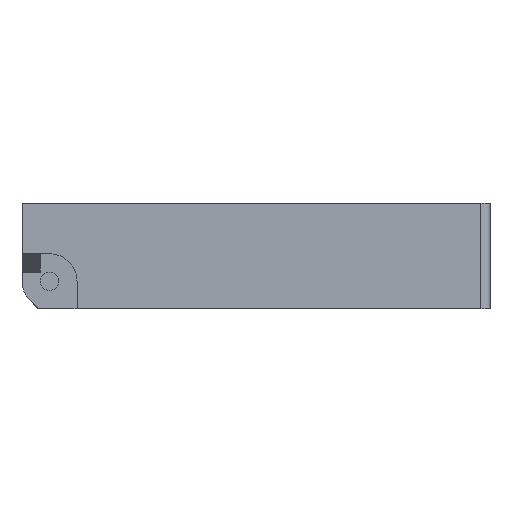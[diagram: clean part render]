
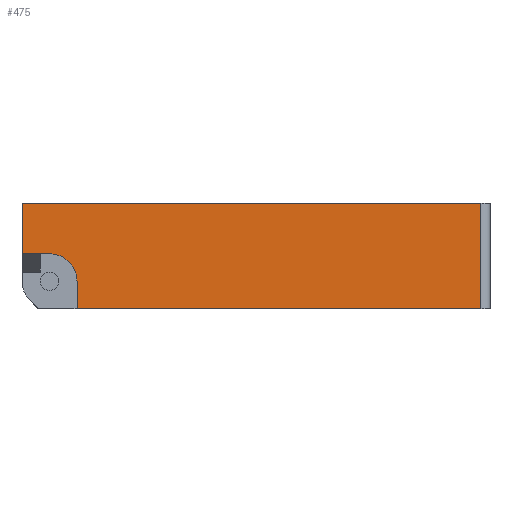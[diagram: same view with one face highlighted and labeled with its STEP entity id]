
A CAD part, front view. The second image highlights one B-rep face of the part: STEP entity #475.
In plain terms, the highlighted planar face has unit normal (0, -1, 0).
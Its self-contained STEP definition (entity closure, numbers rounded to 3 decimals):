
#77 = PLANE('',#78);
#78 = AXIS2_PLACEMENT_3D('',#79,#80,#81);
#79 = CARTESIAN_POINT('',(0.,0.,13.383));
#80 = DIRECTION('',(-1.,-0.,-0.));
#81 = DIRECTION('',(0.,0.,-1.));
#170 = CYLINDRICAL_SURFACE('',#171,6.);
#171 = AXIS2_PLACEMENT_3D('',#172,#173,#174);
#172 = CARTESIAN_POINT('',(6.,-102.,6.));
#173 = DIRECTION('',(0.,-1.,0.));
#174 = DIRECTION('',(1.,0.,0.));
#198 = PLANE('',#199);
#199 = AXIS2_PLACEMENT_3D('',#200,#201,#202);
#200 = CARTESIAN_POINT('',(12.,-102.,6.));
#201 = DIRECTION('',(-1.,0.,0.));
#202 = DIRECTION('',(0.,0.,-1.));
#226 = PLANE('',#227);
#227 = AXIS2_PLACEMENT_3D('',#228,#229,#230);
#228 = CARTESIAN_POINT('',(51.,0.,0.));
#229 = DIRECTION('',(0.,0.,1.));
#230 = DIRECTION('',(1.,0.,0.));
#299 = PLANE('',#300);
#300 = AXIS2_PLACEMENT_3D('',#301,#302,#303);
#301 = CARTESIAN_POINT('',(0.,-102.,12.));
#302 = DIRECTION('',(0.,0.625,0.781));
#303 = DIRECTION('',(0.,0.781,-0.625));
#353 = PLANE('',#354);
#354 = AXIS2_PLACEMENT_3D('',#355,#356,#357);
#355 = CARTESIAN_POINT('',(6.,-102.,12.));
#356 = DIRECTION('',(0.,0.,1.));
#357 = DIRECTION('',(-1.,0.,0.));
#403 = EDGE_CURVE('',#404,#406,#408,.T.);
#404 = VERTEX_POINT('',#405);
#405 = CARTESIAN_POINT('',(4.,-102.,12.));
#406 = VERTEX_POINT('',#407);
#407 = CARTESIAN_POINT('',(0.,-102.,12.));
#408 = SURFACE_CURVE('',#409,(#413,#420),.PCURVE_S1.);
#409 = LINE('',#410,#411);
#410 = CARTESIAN_POINT('',(6.,-102.,12.));
#411 = VECTOR('',#412,1.);
#412 = DIRECTION('',(-1.,0.,0.));
#413 = PCURVE('',#299,#414);
#414 = DEFINITIONAL_REPRESENTATION('',(#415),#419);
#415 = LINE('',#416,#417);
#416 = CARTESIAN_POINT('',(0.,-6.));
#417 = VECTOR('',#418,1.);
#418 = DIRECTION('',(0.,1.));
#419 = ( GEOMETRIC_REPRESENTATION_CONTEXT(2) 
PARAMETRIC_REPRESENTATION_CONTEXT() REPRESENTATION_CONTEXT('2D SPACE',''
  ) );
#420 = PCURVE('',#421,#426);
#421 = PLANE('',#422);
#422 = AXIS2_PLACEMENT_3D('',#423,#424,#425);
#423 = CARTESIAN_POINT('',(102.,-102.,0.));
#424 = DIRECTION('',(0.,-1.,0.));
#425 = DIRECTION('',(-1.,0.,0.));
#426 = DEFINITIONAL_REPRESENTATION('',(#427),#431);
#427 = LINE('',#428,#429);
#428 = CARTESIAN_POINT('',(96.,-12.));
#429 = VECTOR('',#430,1.);
#430 = DIRECTION('',(1.,0.));
#431 = ( GEOMETRIC_REPRESENTATION_CONTEXT(2) 
PARAMETRIC_REPRESENTATION_CONTEXT() REPRESENTATION_CONTEXT('2D SPACE',''
  ) );
#475 = ADVANCED_FACE('',(#476),#421,.T.);
#476 = FACE_BOUND('',#477,.T.);
#477 = EDGE_LOOP('',(#478,#503,#531,#559,#580,#581,#604,#628));
#478 = ORIENTED_EDGE('',*,*,#479,.F.);
#479 = EDGE_CURVE('',#480,#482,#484,.T.);
#480 = VERTEX_POINT('',#481);
#481 = CARTESIAN_POINT('',(100.,-102.,0.));
#482 = VERTEX_POINT('',#483);
#483 = CARTESIAN_POINT('',(12.,-102.,0.));
#484 = SURFACE_CURVE('',#485,(#489,#496),.PCURVE_S1.);
#485 = LINE('',#486,#487);
#486 = CARTESIAN_POINT('',(102.,-102.,0.));
#487 = VECTOR('',#488,1.);
#488 = DIRECTION('',(-1.,0.,0.));
#489 = PCURVE('',#421,#490);
#490 = DEFINITIONAL_REPRESENTATION('',(#491),#495);
#491 = LINE('',#492,#493);
#492 = CARTESIAN_POINT('',(0.,-0.));
#493 = VECTOR('',#494,1.);
#494 = DIRECTION('',(1.,0.));
#495 = ( GEOMETRIC_REPRESENTATION_CONTEXT(2) 
PARAMETRIC_REPRESENTATION_CONTEXT() REPRESENTATION_CONTEXT('2D SPACE',''
  ) );
#496 = PCURVE('',#226,#497);
#497 = DEFINITIONAL_REPRESENTATION('',(#498),#502);
#498 = LINE('',#499,#500);
#499 = CARTESIAN_POINT('',(51.,-102.));
#500 = VECTOR('',#501,1.);
#501 = DIRECTION('',(-1.,0.));
#502 = ( GEOMETRIC_REPRESENTATION_CONTEXT(2) 
PARAMETRIC_REPRESENTATION_CONTEXT() REPRESENTATION_CONTEXT('2D SPACE',''
  ) );
#503 = ORIENTED_EDGE('',*,*,#504,.T.);
#504 = EDGE_CURVE('',#480,#505,#507,.T.);
#505 = VERTEX_POINT('',#506);
#506 = CARTESIAN_POINT('',(100.,-102.,23.));
#507 = SURFACE_CURVE('',#508,(#512,#519),.PCURVE_S1.);
#508 = LINE('',#509,#510);
#509 = CARTESIAN_POINT('',(100.,-102.,0.));
#510 = VECTOR('',#511,1.);
#511 = DIRECTION('',(0.,0.,1.));
#512 = PCURVE('',#421,#513);
#513 = DEFINITIONAL_REPRESENTATION('',(#514),#518);
#514 = LINE('',#515,#516);
#515 = CARTESIAN_POINT('',(2.,0.));
#516 = VECTOR('',#517,1.);
#517 = DIRECTION('',(0.,-1.));
#518 = ( GEOMETRIC_REPRESENTATION_CONTEXT(2) 
PARAMETRIC_REPRESENTATION_CONTEXT() REPRESENTATION_CONTEXT('2D SPACE',''
  ) );
#519 = PCURVE('',#520,#525);
#520 = CYLINDRICAL_SURFACE('',#521,2.);
#521 = AXIS2_PLACEMENT_3D('',#522,#523,#524);
#522 = CARTESIAN_POINT('',(100.,-100.,0.));
#523 = DIRECTION('',(0.,0.,1.));
#524 = DIRECTION('',(1.,0.,0.));
#525 = DEFINITIONAL_REPRESENTATION('',(#526),#530);
#526 = LINE('',#527,#528);
#527 = CARTESIAN_POINT('',(-1.571,0.));
#528 = VECTOR('',#529,1.);
#529 = DIRECTION('',(-0.,1.));
#530 = ( GEOMETRIC_REPRESENTATION_CONTEXT(2) 
PARAMETRIC_REPRESENTATION_CONTEXT() REPRESENTATION_CONTEXT('2D SPACE',''
  ) );
#531 = ORIENTED_EDGE('',*,*,#532,.T.);
#532 = EDGE_CURVE('',#505,#533,#535,.T.);
#533 = VERTEX_POINT('',#534);
#534 = CARTESIAN_POINT('',(0.,-102.,23.));
#535 = SURFACE_CURVE('',#536,(#540,#547),.PCURVE_S1.);
#536 = LINE('',#537,#538);
#537 = CARTESIAN_POINT('',(102.,-102.,23.));
#538 = VECTOR('',#539,1.);
#539 = DIRECTION('',(-1.,0.,0.));
#540 = PCURVE('',#421,#541);
#541 = DEFINITIONAL_REPRESENTATION('',(#542),#546);
#542 = LINE('',#543,#544);
#543 = CARTESIAN_POINT('',(0.,-23.));
#544 = VECTOR('',#545,1.);
#545 = DIRECTION('',(1.,0.));
#546 = ( GEOMETRIC_REPRESENTATION_CONTEXT(2) 
PARAMETRIC_REPRESENTATION_CONTEXT() REPRESENTATION_CONTEXT('2D SPACE',''
  ) );
#547 = PCURVE('',#548,#553);
#548 = PLANE('',#549);
#549 = AXIS2_PLACEMENT_3D('',#550,#551,#552);
#550 = CARTESIAN_POINT('',(51.,0.,23.));
#551 = DIRECTION('',(0.,0.,1.));
#552 = DIRECTION('',(1.,0.,0.));
#553 = DEFINITIONAL_REPRESENTATION('',(#554),#558);
#554 = LINE('',#555,#556);
#555 = CARTESIAN_POINT('',(51.,-102.));
#556 = VECTOR('',#557,1.);
#557 = DIRECTION('',(-1.,0.));
#558 = ( GEOMETRIC_REPRESENTATION_CONTEXT(2) 
PARAMETRIC_REPRESENTATION_CONTEXT() REPRESENTATION_CONTEXT('2D SPACE',''
  ) );
#559 = ORIENTED_EDGE('',*,*,#560,.F.);
#560 = EDGE_CURVE('',#406,#533,#561,.T.);
#561 = SURFACE_CURVE('',#562,(#566,#573),.PCURVE_S1.);
#562 = LINE('',#563,#564);
#563 = CARTESIAN_POINT('',(0.,-102.,0.));
#564 = VECTOR('',#565,1.);
#565 = DIRECTION('',(0.,0.,1.));
#566 = PCURVE('',#421,#567);
#567 = DEFINITIONAL_REPRESENTATION('',(#568),#572);
#568 = LINE('',#569,#570);
#569 = CARTESIAN_POINT('',(102.,0.));
#570 = VECTOR('',#571,1.);
#571 = DIRECTION('',(0.,-1.));
#572 = ( GEOMETRIC_REPRESENTATION_CONTEXT(2) 
PARAMETRIC_REPRESENTATION_CONTEXT() REPRESENTATION_CONTEXT('2D SPACE',''
  ) );
#573 = PCURVE('',#77,#574);
#574 = DEFINITIONAL_REPRESENTATION('',(#575),#579);
#575 = LINE('',#576,#577);
#576 = CARTESIAN_POINT('',(13.383,102.));
#577 = VECTOR('',#578,1.);
#578 = DIRECTION('',(-1.,0.));
#579 = ( GEOMETRIC_REPRESENTATION_CONTEXT(2) 
PARAMETRIC_REPRESENTATION_CONTEXT() REPRESENTATION_CONTEXT('2D SPACE',''
  ) );
#580 = ORIENTED_EDGE('',*,*,#403,.F.);
#581 = ORIENTED_EDGE('',*,*,#582,.F.);
#582 = EDGE_CURVE('',#583,#404,#585,.T.);
#583 = VERTEX_POINT('',#584);
#584 = CARTESIAN_POINT('',(6.,-102.,12.));
#585 = SURFACE_CURVE('',#586,(#590,#597),.PCURVE_S1.);
#586 = LINE('',#587,#588);
#587 = CARTESIAN_POINT('',(6.,-102.,12.));
#588 = VECTOR('',#589,1.);
#589 = DIRECTION('',(-1.,0.,0.));
#590 = PCURVE('',#421,#591);
#591 = DEFINITIONAL_REPRESENTATION('',(#592),#596);
#592 = LINE('',#593,#594);
#593 = CARTESIAN_POINT('',(96.,-12.));
#594 = VECTOR('',#595,1.);
#595 = DIRECTION('',(1.,0.));
#596 = ( GEOMETRIC_REPRESENTATION_CONTEXT(2) 
PARAMETRIC_REPRESENTATION_CONTEXT() REPRESENTATION_CONTEXT('2D SPACE',''
  ) );
#597 = PCURVE('',#353,#598);
#598 = DEFINITIONAL_REPRESENTATION('',(#599),#603);
#599 = LINE('',#600,#601);
#600 = CARTESIAN_POINT('',(0.,0.));
#601 = VECTOR('',#602,1.);
#602 = DIRECTION('',(1.,0.));
#603 = ( GEOMETRIC_REPRESENTATION_CONTEXT(2) 
PARAMETRIC_REPRESENTATION_CONTEXT() REPRESENTATION_CONTEXT('2D SPACE',''
  ) );
#604 = ORIENTED_EDGE('',*,*,#605,.F.);
#605 = EDGE_CURVE('',#606,#583,#608,.T.);
#606 = VERTEX_POINT('',#607);
#607 = CARTESIAN_POINT('',(12.,-102.,6.));
#608 = SURFACE_CURVE('',#609,(#614,#621),.PCURVE_S1.);
#609 = CIRCLE('',#610,6.);
#610 = AXIS2_PLACEMENT_3D('',#611,#612,#613);
#611 = CARTESIAN_POINT('',(6.,-102.,6.));
#612 = DIRECTION('',(0.,-1.,0.));
#613 = DIRECTION('',(1.,0.,0.));
#614 = PCURVE('',#421,#615);
#615 = DEFINITIONAL_REPRESENTATION('',(#616),#620);
#616 = CIRCLE('',#617,6.);
#617 = AXIS2_PLACEMENT_2D('',#618,#619);
#618 = CARTESIAN_POINT('',(96.,-6.));
#619 = DIRECTION('',(-1.,-0.));
#620 = ( GEOMETRIC_REPRESENTATION_CONTEXT(2) 
PARAMETRIC_REPRESENTATION_CONTEXT() REPRESENTATION_CONTEXT('2D SPACE',''
  ) );
#621 = PCURVE('',#170,#622);
#622 = DEFINITIONAL_REPRESENTATION('',(#623),#627);
#623 = LINE('',#624,#625);
#624 = CARTESIAN_POINT('',(0.,0.));
#625 = VECTOR('',#626,1.);
#626 = DIRECTION('',(1.,0.));
#627 = ( GEOMETRIC_REPRESENTATION_CONTEXT(2) 
PARAMETRIC_REPRESENTATION_CONTEXT() REPRESENTATION_CONTEXT('2D SPACE',''
  ) );
#628 = ORIENTED_EDGE('',*,*,#629,.T.);
#629 = EDGE_CURVE('',#606,#482,#630,.T.);
#630 = SURFACE_CURVE('',#631,(#635,#642),.PCURVE_S1.);
#631 = LINE('',#632,#633);
#632 = CARTESIAN_POINT('',(12.,-102.,6.));
#633 = VECTOR('',#634,1.);
#634 = DIRECTION('',(0.,0.,-1.));
#635 = PCURVE('',#421,#636);
#636 = DEFINITIONAL_REPRESENTATION('',(#637),#641);
#637 = LINE('',#638,#639);
#638 = CARTESIAN_POINT('',(90.,-6.));
#639 = VECTOR('',#640,1.);
#640 = DIRECTION('',(0.,1.));
#641 = ( GEOMETRIC_REPRESENTATION_CONTEXT(2) 
PARAMETRIC_REPRESENTATION_CONTEXT() REPRESENTATION_CONTEXT('2D SPACE',''
  ) );
#642 = PCURVE('',#198,#643);
#643 = DEFINITIONAL_REPRESENTATION('',(#644),#648);
#644 = LINE('',#645,#646);
#645 = CARTESIAN_POINT('',(0.,0.));
#646 = VECTOR('',#647,1.);
#647 = DIRECTION('',(1.,0.));
#648 = ( GEOMETRIC_REPRESENTATION_CONTEXT(2) 
PARAMETRIC_REPRESENTATION_CONTEXT() REPRESENTATION_CONTEXT('2D SPACE',''
  ) );
